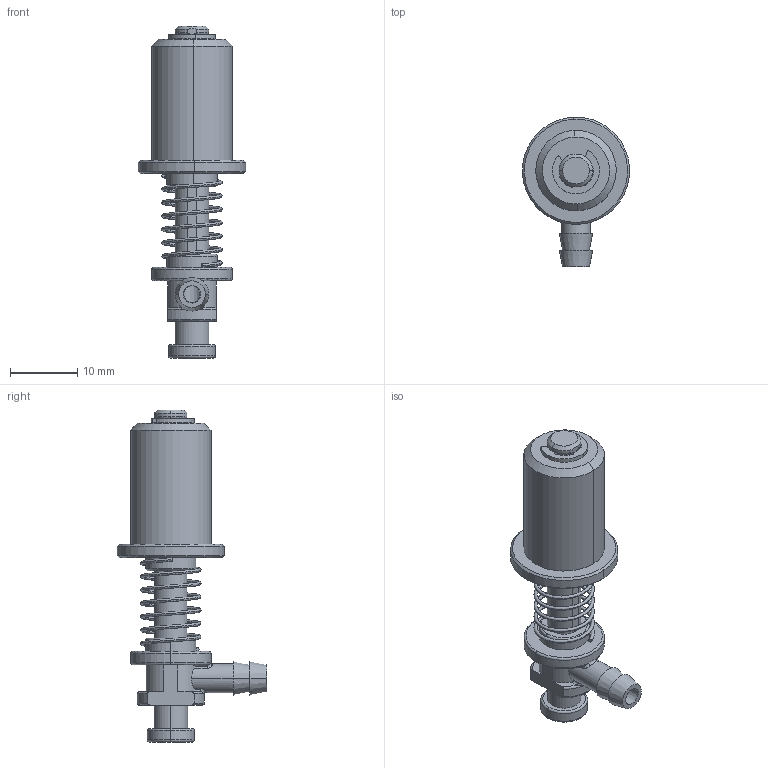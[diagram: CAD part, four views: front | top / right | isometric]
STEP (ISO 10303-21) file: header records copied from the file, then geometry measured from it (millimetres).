
FILE_DESCRIPTION (( 'STEP AP203' ), '1' );
FILE_NAME ('211106.STEP', '2021-10-21T12:11:04', ( '' ), ( '' ), 'SwSTEP 2.0', 'SolidWorks 2018', '' );
FILE_SCHEMA (( 'CONFIG_CONTROL_DESIGN' ));
Length unit declared in the file: millimetre
Products named in the file (1): 211106
Bounding box: 15.98 x 22.29 x 49.5 mm (x, y, z)
Volume: 3551.2 mm3; surface area: 2676.9 mm2
Topology: 2 solids, 2 shells, 130 faces, 320 edges, 202 vertices
Faces by surface type: cylinder 46, plane 38, cone 18, torus 18, bspline 10
Entity records: 5905 total; most frequent: CARTESIAN_POINT 2727, DIRECTION 676, ORIENTED_EDGE 640, EDGE_CURVE 320, AXIS2_PLACEMENT_3D 281, VERTEX_POINT 202, CIRCLE 160, EDGE_LOOP 144
